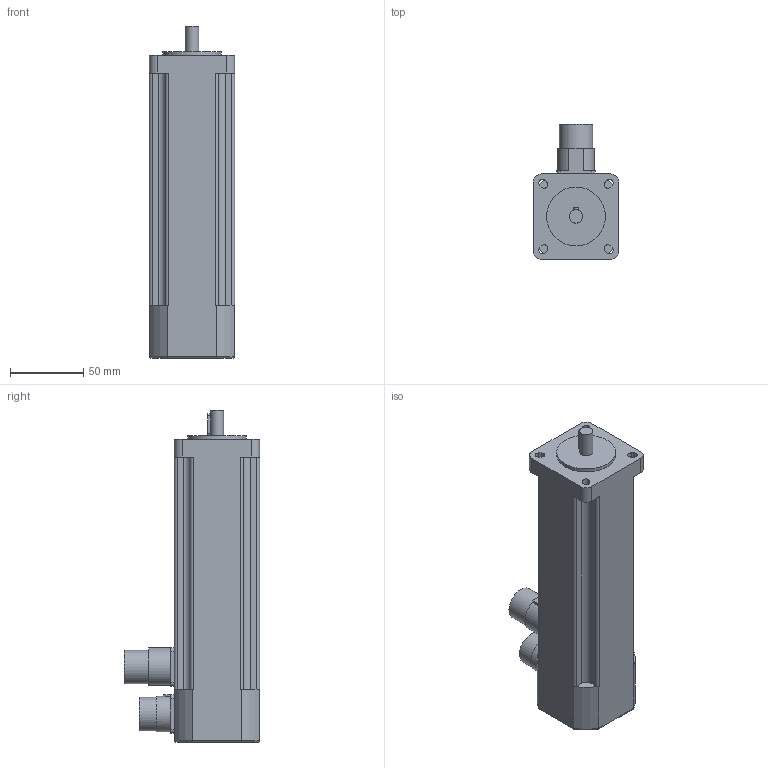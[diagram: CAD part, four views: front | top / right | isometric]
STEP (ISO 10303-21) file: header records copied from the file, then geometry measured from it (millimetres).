
FILE_DESCRIPTION(/* description */ (''),/* implementation_level */ '2;1');
FILE_NAME(/* name */ '\\Lafnas01\disegni\Archivi Lafert\3D\CAD 3D\MODELLI\Assiemi clienti\Serad\Modelli 3D Serad\B28I\Resolver\Res With Brake\B2801Ixx4B050033.ipt.stp',/* time_stamp */ '2015-09-07T10:48:08+02:00',/* author */ ('Pastrello Ylenia'),/* organization */ (''),/* preprocessor_version */ 'ST-DEVELOPER v15.6',/* originating_system */ 'Autodesk Inventor 2015',/* authorisation */ '');
FILE_SCHEMA (('AUTOMOTIVE_DESIGN { 1 0 10303 214 3 1 1 }'));
Length unit declared in the file: millimetre
Products named in the file (1): B2801Ixx4B050033
Bounding box: 58 x 92 x 226 mm (x, y, z)
Volume: 638332.3 mm3; surface area: 57876.8 mm2
Topology: 1 solids, 1 shells, 133 faces, 356 edges, 231 vertices
Faces by surface type: plane 71, cylinder 58, torus 4
Full cylindrical faces by diameter (mm): 9 x1, 22.7 x2, 24 x1, 40 x1
Entity records: 4247 total; most frequent: CARTESIAN_POINT 847, DIRECTION 719, ORIENTED_EDGE 696, EDGE_CURVE 347, AXIS2_PLACEMENT_3D 250, VERTEX_POINT 228, LINE 219, VECTOR 219
